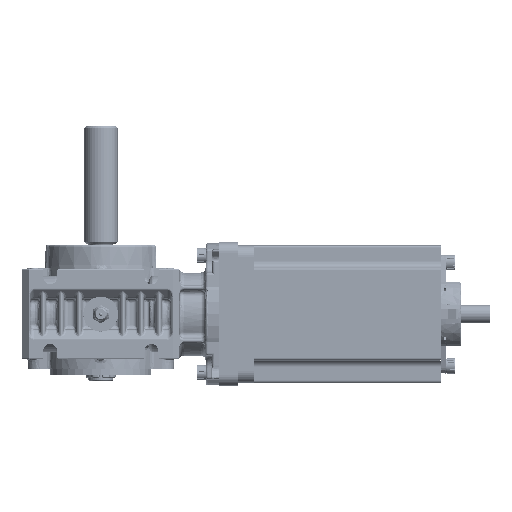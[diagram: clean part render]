
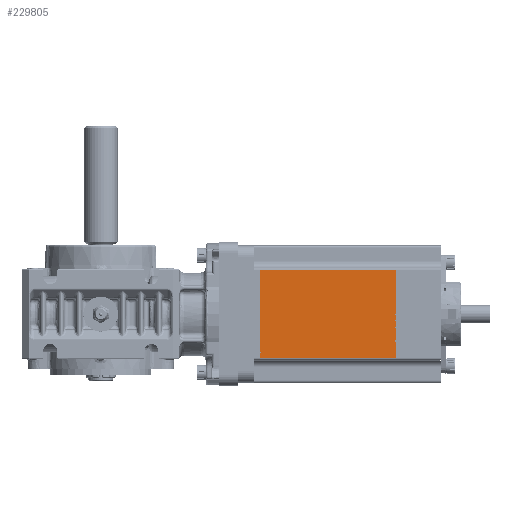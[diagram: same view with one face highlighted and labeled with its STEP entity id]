
A CAD part, front view. The second image highlights one B-rep face of the part: STEP entity #229805.
In plain terms, the highlighted planar face has unit normal (0, -1, 0).
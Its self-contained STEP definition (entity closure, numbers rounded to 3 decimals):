
#3910 = ORIENTED_EDGE ( 'NONE', *, *, #369966, .F. ) ;
#23657 = DIRECTION ( 'NONE',  ( 0., 0., -1. ) ) ;
#66520 = DIRECTION ( 'NONE',  ( 1., 0., 0. ) ) ;
#75805 = DIRECTION ( 'NONE',  ( -1., 0., 0. ) ) ;
#79684 = CARTESIAN_POINT ( 'NONE',  ( 25.122, -16.123, 113.517 ) ) ;
#83452 = VECTOR ( 'NONE', #66520, 1000. ) ;
#85992 = CARTESIAN_POINT ( 'NONE',  ( -34.878, -16.123, 107.517 ) ) ;
#87797 = LINE ( 'NONE', #213425, #83452 ) ;
#119115 = DIRECTION ( 'NONE',  ( 1., 0., 0. ) ) ;
#121023 = DIRECTION ( 'NONE',  ( 0., -1., 0. ) ) ;
#132886 = VECTOR ( 'NONE', #75805, 1000. ) ;
#165908 = CARTESIAN_POINT ( 'NONE',  ( -34.878, -16.123, 68.517 ) ) ;
#177387 = AXIS2_PLACEMENT_3D ( 'NONE', #298785, #121023, #119115 ) ;
#185445 = CARTESIAN_POINT ( 'NONE',  ( -34.878, -16.123, 113.517 ) ) ;
#189244 = VERTEX_POINT ( 'NONE', #209697 ) ;
#191944 = CARTESIAN_POINT ( 'NONE',  ( -37.878, -16.123, 107.517 ) ) ;
#193836 = LINE ( 'NONE', #191944, #132886 ) ;
#209697 = CARTESIAN_POINT ( 'NONE',  ( 25.122, -16.123, 68.517 ) ) ;
#213425 = CARTESIAN_POINT ( 'NONE',  ( 45.122, -16.123, 68.517 ) ) ;
#213800 = PLANE ( 'NONE',  #177387 ) ;
#224744 = LINE ( 'NONE', #79684, #333980 ) ;
#229805 = ADVANCED_FACE ( 'NONE', ( #240832 ), #213800, .T. ) ;
#238979 = EDGE_CURVE ( 'NONE', #325656, #350990, #193836, .T. ) ;
#240832 = FACE_OUTER_BOUND ( 'NONE', #349160, .T. ) ;
#264523 = ORIENTED_EDGE ( 'NONE', *, *, #346305, .T. ) ;
#276870 = EDGE_CURVE ( 'NONE', #325656, #189244, #224744, .T. ) ;
#298785 = CARTESIAN_POINT ( 'NONE',  ( 45.122, -16.123, 113.517 ) ) ;
#301352 = LINE ( 'NONE', #185445, #364733 ) ;
#308269 = ORIENTED_EDGE ( 'NONE', *, *, #238979, .T. ) ;
#325656 = VERTEX_POINT ( 'NONE', #341093 ) ;
#333980 = VECTOR ( 'NONE', #23657, 1000. ) ;
#341093 = CARTESIAN_POINT ( 'NONE',  ( 25.122, -16.123, 107.517 ) ) ;
#346305 = EDGE_CURVE ( 'NONE', #346647, #189244, #87797, .T. ) ;
#346647 = VERTEX_POINT ( 'NONE', #165908 ) ;
#349160 = EDGE_LOOP ( 'NONE', ( #360842, #308269, #3910, #264523 ) ) ;
#350990 = VERTEX_POINT ( 'NONE', #85992 ) ;
#360842 = ORIENTED_EDGE ( 'NONE', *, *, #276870, .F. ) ;
#364733 = VECTOR ( 'NONE', #368436, 1000. ) ;
#368436 = DIRECTION ( 'NONE',  ( 0., 0., 1. ) ) ;
#369966 = EDGE_CURVE ( 'NONE', #346647, #350990, #301352, .T. ) ;
